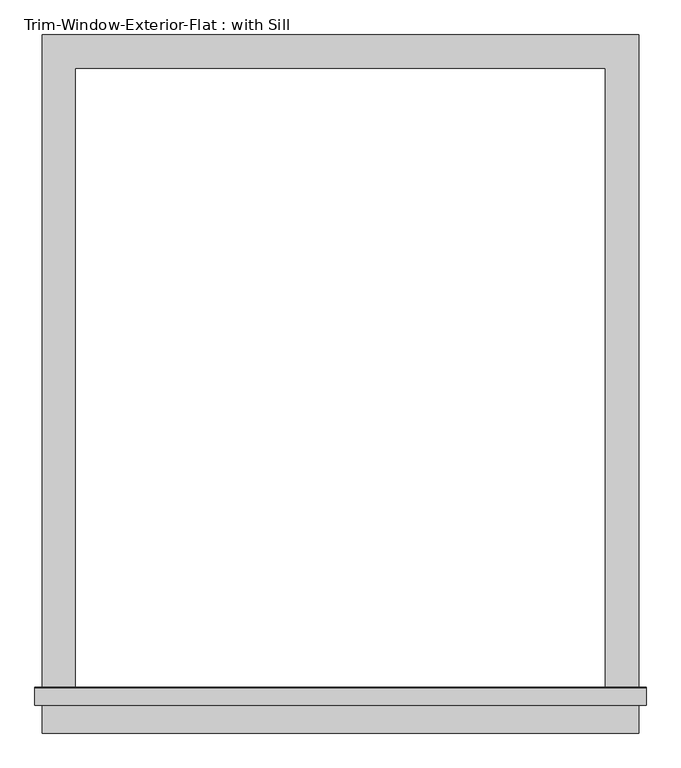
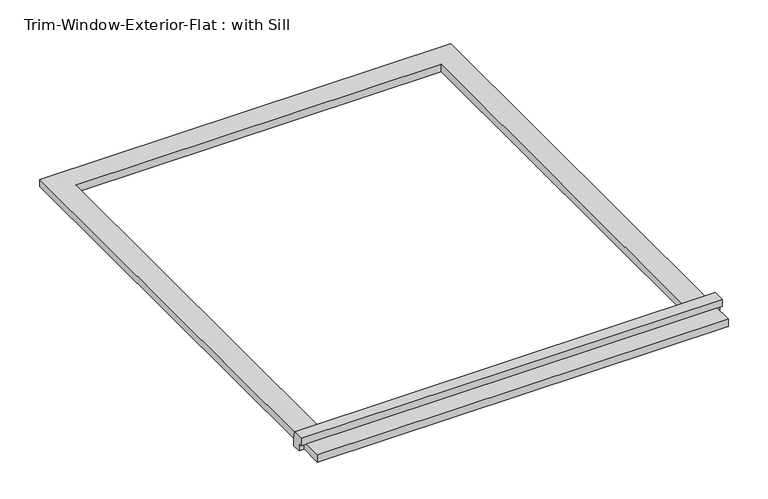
"""IFC4 building model written with IfcOpenShell, lengths in millimetres: proxy geometry, Trim-Window-Exterior-Flat : with Sill."""

from ifc_helpers import new_model, si_unit, frame, origin, origin_with_axes, place, context, project, spatial, polyline, outline, extrude, source, transform, mapped, element, save


def trim_window_exterior_flat_with_sill_1a1a26d5(model_context):
    return source(origin(), model_context, "Body", "SweptSolid", [
        extrude(outline(polyline([(514.35, -1088.9823709), (514.35, -1146.1323709), (-514.35, -1146.1323709), (-514.35, -1088.9823709), (514.35, -1088.9823709)])), origin_with_axes(), (0.0, 0.0, 1.0), 19.05),
        extrude(outline(polyline([(-1098.55, 38.1), (-1069.2580645, 38.1), (-1066.8, 19.05), (-1066.8, 0.0), (-1088.9823709, 0.0), (-1088.9823709, 19.05), (-1098.55, 19.05), (-1098.55, 38.1)])), frame((-527.05, 0.0, 0.0), z_axis=(1.0, 0.0, 0.0), x_axis=(0.0, 1.0, 0.0)), (0.0, 0.0, 1.0), 1054.1),
        extrude(outline(polyline([(-514.35, 57.15), (514.35, 57.15), (514.35, -1066.8), (457.2, -1066.8), (457.2, 0.0), (-457.2, 0.0), (-457.2, -1066.8), (-514.35, -1066.8), (-514.35, 57.15)])), origin_with_axes(), (0.0, 0.0, 1.0), 19.05),
    ])


if __name__ == "__main__":
    model = new_model("IFC4")
    model_context = context("Model", 3, world=origin())
    ifc_project = project(units=[si_unit("LENGTHUNIT", "METRE", prefix="MILLI")], contexts=[model_context])
    site = spatial("IfcSite", under=ifc_project)
    building = spatial("IfcBuilding", under=site)
    placement = place(None, origin())
    trim_window_exterior_flat_with_sill_shape = trim_window_exterior_flat_with_sill_1a1a26d5(model_context)
    element("IfcBuildingElementProxy", 1, Name="Trim-Window-Exterior-Flat : with Sill", ObjectType="Trim-Window-Exterior-Flat : with Sill", at=placement, inside=building, context=model_context, shape_type="MappedRepresentation", body=[
        mapped(trim_window_exterior_flat_with_sill_shape, transform((0.0, 0.0, 0.0), x_axis=(1.0, 0.0, 0.0), y_axis=(0.0, 1.0, 0.0), z_axis=(0.0, 0.0, 1.0))),
    ])
    save(model, "model.ifc")
